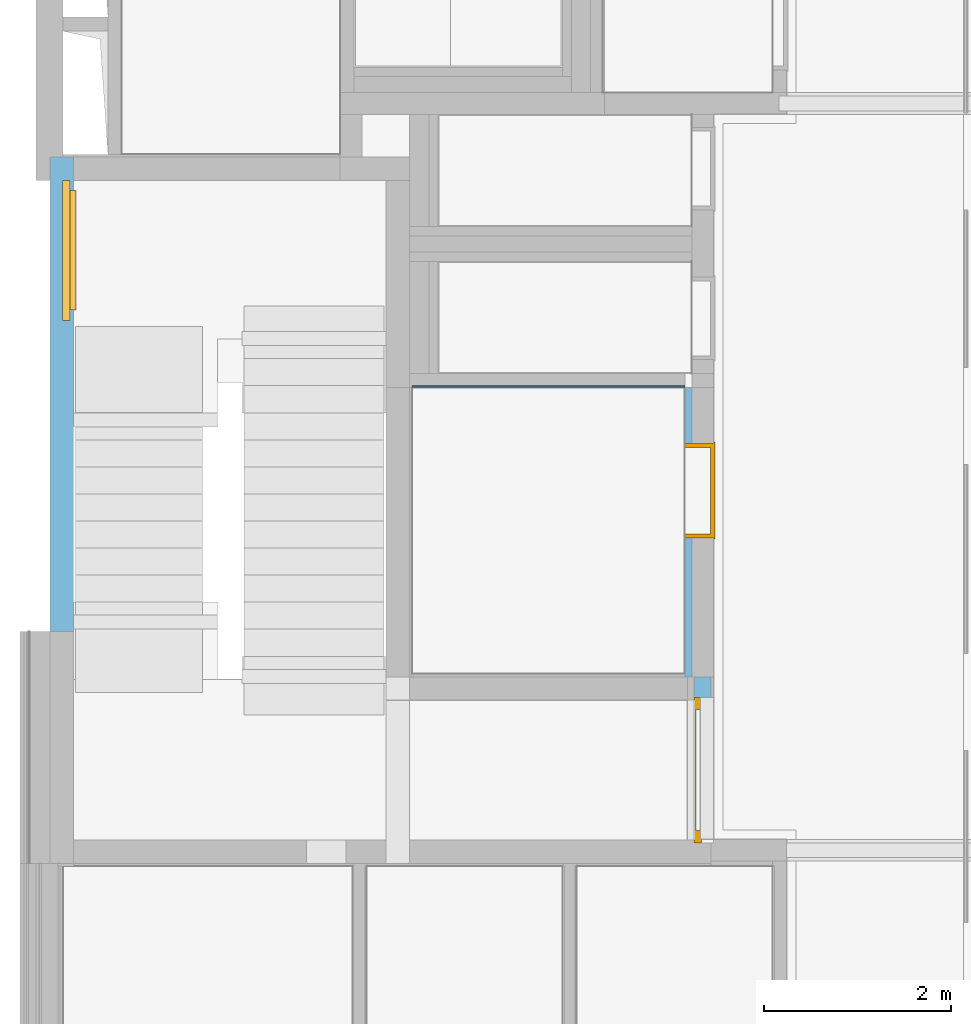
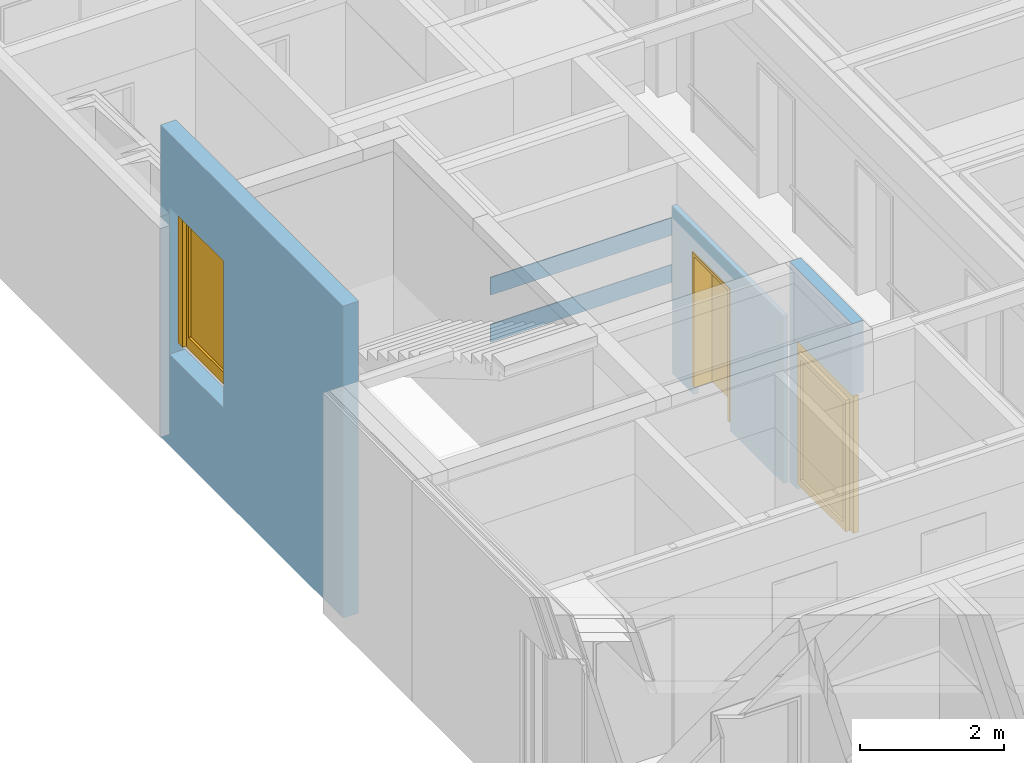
# One storey, part 67 of 222: 3 doors, 2 walls, 3 openings, plus 3 elements that do not belong to this part.
"""IFC4 building model written with IfcOpenShell, lengths in metres."""

from ifc_helpers import new_model, entity, si_unit, converted_unit, derived_unit, frame, frame_2d, origin, origin_with_axes, place, context, subcontext, project, spatial, polyline, rectangle, outline, extrude, closed_shell, open_shell, faceted_brep, surface_model, source, transform, mapped, material, type_object, element, fill, save


model = new_model("IFC4")

# Units and contexts
model_context = context("Model", 3, precision=1e-05, world=origin())
body_context = subcontext(model_context, "Body", "Model", "MODEL_VIEW")
ifc_project = project(units=[si_unit("LENGTHUNIT", "METRE"), si_unit("AREAUNIT", "SQUARE_METRE"), si_unit("VOLUMEUNIT", "CUBIC_METRE"), si_unit("MASSUNIT", "GRAM", prefix="KILO"), converted_unit("PLANEANGLEUNIT", "DEGREE", entity("IfcPlaneAngleMeasure", 0.0174532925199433), si_unit("PLANEANGLEUNIT", "RADIAN"), dimensions=[0, 0, 0, 0, 0, 0, 0]), derived_unit("THERMALTRANSMITTANCEUNIT", [(si_unit("POWERUNIT", "WATT"), 1), (si_unit("THERMODYNAMICTEMPERATUREUNIT", "KELVIN"), -1), (si_unit("LENGTHUNIT", "METRE"), -2)]), derived_unit("VOLUMETRICFLOWRATEUNIT", [(si_unit("LENGTHUNIT", "METRE"), 3), (converted_unit("TIMEUNIT", "hour", entity("IfcTimeMeasure", 3600.0), si_unit("TIMEUNIT", "SECOND"), dimensions=[0, 0, 1, 0, 0, 0, 0]), -1), (si_unit("LENGTHUNIT", "METRE"), -1)])], contexts=[model_context])

# Site, building, storey
site_placement = place(None, origin())
site = spatial("IfcSite", under=ifc_project, at=site_placement, Name="Psychiatrie Neubau Wunstorf", CompositionType="ELEMENT")
building_placement = place(site_placement, origin())
building = spatial("IfcBuilding", under=site, at=building_placement, Name="Neubau H2 Stationsgebäude", CompositionType="ELEMENT")
storey_placement = place(building_placement, frame((0.0, 0.0, 3.6)))
storey = spatial("IfcBuildingStorey", under=building, at=storey_placement, Name="H2 Ebene +1", CompositionType="ELEMENT", Elevation=3.6)

# Wall, opening, door
ifc_material_1 = material(Name="WI-STB")
wall_1_placement = place(storey_placement, frame((0.0300000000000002, 17.1949998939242, -0.2), z_axis=(0.0, 0.0, 1.0), x_axis=(0.0, -1.0, 0.0)))
wall_1 = element("IfcWall", 1, at=wall_1_placement, inside=storey, material=ifc_material_1, context=body_context, shape_type="SweptSolid", body=[
    extrude(rectangle(XDim=5.08475356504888, YDim=0.25, at=frame_2d((2.54237678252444, 0.125), x_axis=(1.0, 0.0))), origin_with_axes(), (0.0, 0.0, 1.0), 5.31),
])
opening_1_placement = place(wall_1_placement, frame((1.75000000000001, 0.25, 1.56), z_axis=(0.0, -1.0, 0.0), x_axis=(0.0, 0.0, 1.0)))
opening_1 = element("IfcOpeningElement", 2, at=opening_1_placement, cuts=wall_1, Name="Türöffnung", ObjectType="Opening", context=body_context, shape_type="SweptSolid", body=[
    extrude(outline(polyline([(2.5, 1.5), (2.5, 0.0), (0.0, 0.0), (0.0, 1.5), (2.5, 1.5)])), origin_with_axes(), (0.0, 0.0, 1.0), 0.25),
])
ifc_material_2 = material(Name="TI-1F-AG-DK")
door_type_1 = type_object("IfcDoorType", Name="SMT", OperationType="SINGLE_SWING_LEFT", ParameterTakesPrecedence=False, PredefinedType="DOOR")
shared_shape_1 = source(origin_with_axes(), body_context, "Body", "SurfaceModel", [
    surface_model("IfcShellBasedSurfaceModel", [(0.0, 0.0799999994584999, 2.5), (0.0, 0.0799999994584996, 0.15), (0.0499999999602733, 0.0799999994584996, 0.15), (0.0499999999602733, 0.0799999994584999, 2.5), (0.0, 0.0, 0.15), (0.0, 0.0, 2.5), (0.0499999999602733, 0.0, 2.5), (0.0499999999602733, 0.0, 0.15)], [closed_shell([[[0, 1, 2, 3]], [[4, 5, 6, 7]], [[1, 0, 5, 4]], [[2, 1, 4, 7]], [[3, 2, 7, 6]], [[0, 3, 6, 5]]], orient=[[False], [False], [False], [False], [False], [False]])]),
    surface_model("IfcShellBasedSurfaceModel", [(1.45000000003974, 0.0799999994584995, 2.5), (1.45000000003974, 0.0799999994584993, 0.15), (1.50000000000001, 0.0799999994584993, 0.15), (1.50000000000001, 0.0799999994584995, 2.5), (1.45000000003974, 0.0, 0.15), (1.45000000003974, 0.0, 2.5), (1.50000000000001, 0.0, 2.5), (1.50000000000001, 0.0, 0.15)], [closed_shell([[[0, 1, 2, 3]], [[4, 5, 6, 7]], [[1, 0, 5, 4]], [[2, 1, 4, 7]], [[3, 2, 7, 6]], [[0, 3, 6, 5]]], orient=[[False], [False], [False], [False], [False], [False]])]),
    surface_model("IfcShellBasedSurfaceModel", [(0.0499999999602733, 0.0799999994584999, 2.5), (0.0499999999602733, 0.0799999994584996, 0.15), (0.1299999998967, 0.0799999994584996, 0.15), (0.1299999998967, 0.0799999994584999, 2.5), (0.0499999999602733, 0.0, 0.15), (0.0499999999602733, 0.0, 2.5), (0.1299999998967, 0.0, 2.5), (0.1299999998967, 0.0, 0.15)], [closed_shell([[[0, 1, 2, 3]], [[4, 5, 6, 7]], [[1, 0, 5, 4]], [[2, 1, 4, 7]], [[3, 2, 7, 6]], [[0, 3, 6, 5]]], orient=[[False], [False], [False], [False], [False], [False]])]),
    surface_model("IfcShellBasedSurfaceModel", [(1.37000000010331, 0.0799999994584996, 2.5), (1.37000000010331, 0.0799999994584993, 0.15), (1.45000000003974, 0.0799999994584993, 0.15), (1.45000000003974, 0.0799999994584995, 2.5), (1.37000000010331, 0.0, 0.15), (1.37000000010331, 0.0, 2.5), (1.45000000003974, 0.0, 2.5), (1.45000000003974, 0.0, 0.15)], [closed_shell([[[0, 1, 2, 3]], [[4, 5, 6, 7]], [[1, 0, 5, 4]], [[2, 1, 4, 7]], [[3, 2, 7, 6]], [[0, 3, 6, 5]]], orient=[[False], [False], [False], [False], [False], [False]])]),
    surface_model("IfcShellBasedSurfaceModel", [(0.1299999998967, 0.0799999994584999, 2.5), (0.1299999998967, 0.0799999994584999, 2.42), (1.37000000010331, 0.0799999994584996, 2.42), (1.37000000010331, 0.0799999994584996, 2.5), (0.1299999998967, 0.0, 2.42), (0.1299999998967, 0.0, 2.5), (1.37000000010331, 0.0, 2.5), (1.37000000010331, 0.0, 2.42)], [closed_shell([[[0, 1, 2, 3]], [[4, 5, 6, 7]], [[1, 0, 5, 4]], [[2, 1, 4, 7]], [[3, 2, 7, 6]], [[0, 3, 6, 5]]], orient=[[False], [False], [False], [False], [False], [False]])]),
    surface_model("IfcShellBasedSurfaceModel", [(0.109999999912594, 0.1399999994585, 2.44), (0.109999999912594, 0.1399999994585, 0.13), (0.18999999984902, 0.1399999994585, 0.13), (0.18999999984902, 0.1399999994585, 2.44), (0.109999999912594, 0.0599999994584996, 0.13), (0.109999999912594, 0.0599999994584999, 2.44), (0.18999999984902, 0.0599999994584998, 2.44), (0.18999999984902, 0.0599999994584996, 0.13)], [closed_shell([[[0, 1, 2, 3]], [[4, 5, 6, 7]], [[1, 0, 5, 4]], [[2, 1, 4, 7]], [[3, 2, 7, 6]], [[0, 3, 6, 5]]], orient=[[False], [False], [False], [False], [False], [False]])]),
    surface_model("IfcShellBasedSurfaceModel", [(1.31000000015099, 0.1399999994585, 2.44), (1.31000000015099, 0.139999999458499, 0.13), (1.39000000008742, 0.139999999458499, 0.13), (1.39000000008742, 0.1399999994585, 2.44), (1.31000000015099, 0.0599999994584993, 0.13), (1.31000000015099, 0.0599999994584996, 2.44), (1.39000000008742, 0.0599999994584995, 2.44), (1.39000000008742, 0.0599999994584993, 0.13)], [closed_shell([[[0, 1, 2, 3]], [[4, 5, 6, 7]], [[1, 0, 5, 4]], [[2, 1, 4, 7]], [[3, 2, 7, 6]], [[0, 3, 6, 5]]], orient=[[False], [False], [False], [False], [False], [False]])]),
    surface_model("IfcShellBasedSurfaceModel", [(0.18999999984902, 0.1399999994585, 0.33), (0.18999999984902, 0.1399999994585, 0.13), (1.31000000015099, 0.139999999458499, 0.13), (1.31000000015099, 0.139999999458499, 0.33), (0.18999999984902, 0.0599999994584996, 0.13), (0.18999999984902, 0.0599999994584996, 0.33), (1.31000000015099, 0.0599999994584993, 0.33), (1.31000000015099, 0.0599999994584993, 0.13)], [closed_shell([[[0, 1, 2, 3]], [[4, 5, 6, 7]], [[1, 0, 5, 4]], [[2, 1, 4, 7]], [[3, 2, 7, 6]], [[0, 3, 6, 5]]], orient=[[False], [False], [False], [False], [False], [False]])]),
    surface_model("IfcShellBasedSurfaceModel", [(0.18999999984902, 0.1399999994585, 2.44), (0.18999999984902, 0.1399999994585, 2.36), (1.31000000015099, 0.1399999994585, 2.36), (1.31000000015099, 0.1399999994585, 2.44), (0.18999999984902, 0.0599999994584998, 2.36), (0.18999999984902, 0.0599999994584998, 2.44), (1.31000000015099, 0.0599999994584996, 2.44), (1.31000000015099, 0.0599999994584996, 2.36)], [closed_shell([[[0, 1, 2, 3]], [[4, 5, 6, 7]], [[1, 0, 5, 4]], [[2, 1, 4, 7]], [[3, 2, 7, 6]], [[0, 3, 6, 5]]], orient=[[False], [False], [False], [False], [False], [False]])]),
    surface_model("IfcShellBasedSurfaceModel", [(0.18999999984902, 0.0999999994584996, 0.33), (1.31000000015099, 0.0999999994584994, 0.33), (1.31000000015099, 0.0999999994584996, 2.36), (0.18999999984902, 0.0999999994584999, 2.36)], [open_shell([[[0, 1, 2, 3]]], orient=[[False]])]),
])
door_1_placement = place(opening_1_placement, frame((0.0, 1.5, 0.115), z_axis=(1.0, 0.0, 0.0), x_axis=(0.0, -1.0, 0.0)))
door_1 = element("IfcDoor", 3, at=door_1_placement, inside=storey, type_object=door_type_1, material=ifc_material_2, Name="SMT", OverallHeight=2.5, OverallWidth=1.5, context=body_context, shape_type="MappedRepresentation", body=[
    mapped(shared_shape_1, transform((0.0, 0.0, 0.0), x_axis=(1.0, 0.0, 0.0), y_axis=(0.0, 1.0, 0.0), z_axis=(0.0, 0.0, 1.0), scale=1.0)),
])
fill(opening_1, door_1)

ifc_material_3 = material(Name="WI-STB")
wall_2_placement = place(storey_placement, frame((6.93099923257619, 11.6249998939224, 0.0), z_axis=(0.0, 0.0, 1.0), x_axis=(0.0, -1.0, 0.0)))
wall_2 = element("IfcWall", 4, at=wall_2_placement, inside=storey, material=ifc_material_3, context=body_context, shape_type="SweptSolid", body=[
    extrude(rectangle(XDim=1.74999844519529, YDim=0.179999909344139, at=frame_2d((0.874999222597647, 0.0899999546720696), x_axis=(1.0, 0.0))), origin_with_axes(), (0.0, 0.0, 1.0), 3.75),
])
opening_2_placement = place(wall_2_placement, frame((1.7799999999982, 0.179999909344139, 0.0), z_axis=(0.0, -1.0, 0.0), x_axis=(0.0, 0.0, 1.0)))
opening_2 = element("IfcOpeningElement", 5, at=opening_2_placement, cuts=wall_2, Name="Türöffnung", ObjectType="Opening", context=body_context, shape_type="SweptSolid", body=[
    extrude(outline(polyline([(2.53, 1.56), (2.53, 0.0), (0.0, 0.0), (0.0, 1.56), (2.53, 1.56)])), origin_with_axes(), (0.0, 0.0, 1.0), 0.179999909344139),
])
ifc_material_4 = material(Name="TI-1F-AG-D-O")
door_type_2 = type_object("IfcDoorType", Name="SMT", OperationType="SINGLE_SWING_RIGHT", ParameterTakesPrecedence=False, PredefinedType="DOOR")
shared_shape_2 = source(origin_with_axes(), body_context, "Body", "SurfaceModel", [
    surface_model("IfcShellBasedSurfaceModel", [(1.54597999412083, 0.0791468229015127, 2.53), (1.49597999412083, 0.0791468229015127, 2.53), (1.49597999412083, 0.0791468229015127, 0.2), (1.54597999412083, 0.0791468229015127, 0.2), (1.54597999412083, -0.000853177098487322, 0.2), (1.49597999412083, -0.000853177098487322, 0.2), (1.49597999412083, -0.000853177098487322, 2.53), (1.54597999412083, -0.000853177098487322, 2.53)], [closed_shell([[[0, 1, 2, 3]], [[4, 5, 6, 7]], [[3, 4, 7, 0]], [[2, 5, 4, 3]], [[1, 6, 5, 2]], [[0, 7, 6, 1]]], orient=[[False], [False], [False], [False], [False], [False]])]),
    surface_model("IfcShellBasedSurfaceModel", [(0.0359799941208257, 0.0791468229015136, 2.53), (-0.0140200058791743, 0.0791468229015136, 2.53), (-0.0140200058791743, 0.0791468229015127, 0.2), (0.0359799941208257, 0.0791468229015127, 0.2), (0.0359799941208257, -0.000853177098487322, 0.2), (-0.0140200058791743, -0.000853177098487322, 0.2), (-0.0140200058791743, -0.000853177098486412, 2.53), (0.0359799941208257, -0.000853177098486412, 2.53)], [closed_shell([[[0, 1, 2, 3]], [[4, 5, 6, 7]], [[3, 4, 7, 0]], [[2, 5, 4, 3]], [[1, 6, 5, 2]], [[0, 7, 6, 1]]], orient=[[False], [False], [False], [False], [False], [False]])]),
    surface_model("IfcShellBasedSurfaceModel", [(1.49597999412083, 0.0791468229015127, 2.53), (0.0359799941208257, 0.0791468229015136, 2.53), (0.0359799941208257, 0.0791468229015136, 2.48), (1.49597999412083, 0.0791468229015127, 2.48), (1.49597999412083, -0.000853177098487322, 2.48), (0.0359799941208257, -0.000853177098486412, 2.48), (0.0359799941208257, -0.000853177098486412, 2.53), (1.49597999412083, -0.000853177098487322, 2.53)], [closed_shell([[[0, 1, 2, 3]], [[4, 5, 6, 7]], [[3, 4, 7, 0]], [[2, 5, 4, 3]], [[1, 6, 5, 2]], [[0, 7, 6, 1]]], orient=[[False], [False], [False], [False], [False], [False]])]),
    surface_model("IfcShellBasedSurfaceModel", [(1.49597999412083, 0.0791468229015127, 2.48), (1.41597999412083, 0.0791468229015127, 2.48), (1.41597999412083, 0.0791468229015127, 0.2), (1.49597999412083, 0.0791468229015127, 0.2), (1.49597999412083, -0.000853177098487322, 0.2), (1.41597999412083, -0.000853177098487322, 0.2), (1.41597999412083, -0.000853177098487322, 2.48), (1.49597999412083, -0.000853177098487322, 2.48)], [closed_shell([[[0, 1, 2, 3]], [[4, 5, 6, 7]], [[3, 4, 7, 0]], [[2, 5, 4, 3]], [[1, 6, 5, 2]], [[0, 7, 6, 1]]], orient=[[False], [False], [False], [False], [False], [False]])]),
    surface_model("IfcShellBasedSurfaceModel", [(0.115979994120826, 0.0791468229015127, 2.48), (0.0359799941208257, 0.0791468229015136, 2.48), (0.0359799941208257, 0.0791468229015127, 0.2), (0.115979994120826, 0.0791468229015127, 0.2), (0.115979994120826, -0.000853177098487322, 0.2), (0.0359799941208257, -0.000853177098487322, 0.2), (0.0359799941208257, -0.000853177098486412, 2.48), (0.115979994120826, -0.000853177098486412, 2.48)], [closed_shell([[[0, 1, 2, 3]], [[4, 5, 6, 7]], [[3, 4, 7, 0]], [[2, 5, 4, 3]], [[1, 6, 5, 2]], [[0, 7, 6, 1]]], orient=[[False], [False], [False], [False], [False], [False]])]),
    surface_model("IfcShellBasedSurfaceModel", [(1.41597999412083, 0.0791468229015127, 2.48), (0.115979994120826, 0.0791468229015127, 2.48), (0.115979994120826, 0.0791468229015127, 2.4), (1.41597999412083, 0.0791468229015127, 2.4), (1.41597999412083, -0.000853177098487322, 2.4), (0.115979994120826, -0.000853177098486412, 2.4), (0.115979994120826, -0.000853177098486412, 2.48), (1.41597999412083, -0.000853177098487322, 2.48)], [closed_shell([[[0, 1, 2, 3]], [[4, 5, 6, 7]], [[3, 4, 7, 0]], [[2, 5, 4, 3]], [[1, 6, 5, 2]], [[0, 7, 6, 1]]], orient=[[False], [False], [False], [False], [False], [False]])]),
    surface_model("IfcShellBasedSurfaceModel", [(1.43597999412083, 0.139146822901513, 2.42), (1.35597999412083, 0.139146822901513, 2.42), (1.35597999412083, 0.139146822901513, 0.18), (1.43597999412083, 0.139146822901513, 0.18), (1.43597999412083, 0.0591468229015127, 0.18), (1.35597999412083, 0.0591468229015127, 0.18), (1.35597999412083, 0.0591468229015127, 2.42), (1.43597999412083, 0.0591468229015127, 2.42)], [closed_shell([[[0, 1, 2, 3]], [[4, 5, 6, 7]], [[3, 4, 7, 0]], [[2, 5, 4, 3]], [[1, 6, 5, 2]], [[0, 7, 6, 1]]], orient=[[False], [False], [False], [False], [False], [False]])]),
    surface_model("IfcShellBasedSurfaceModel", [(0.175979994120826, 0.139146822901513, 2.42), (0.0959799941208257, 0.139146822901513, 2.42), (0.0959799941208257, 0.139146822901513, 0.18), (0.175979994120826, 0.139146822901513, 0.18), (0.175979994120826, 0.0591468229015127, 0.18), (0.0959799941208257, 0.0591468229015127, 0.18), (0.0959799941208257, 0.0591468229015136, 2.42), (0.175979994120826, 0.0591468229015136, 2.42)], [closed_shell([[[0, 1, 2, 3]], [[4, 5, 6, 7]], [[3, 4, 7, 0]], [[2, 5, 4, 3]], [[1, 6, 5, 2]], [[0, 7, 6, 1]]], orient=[[False], [False], [False], [False], [False], [False]])]),
    surface_model("IfcShellBasedSurfaceModel", [(1.35597999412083, 0.139146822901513, 0.3), (0.175979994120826, 0.139146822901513, 0.3), (0.175979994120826, 0.139146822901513, 0.18), (1.35597999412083, 0.139146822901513, 0.18), (1.35597999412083, 0.0591468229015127, 0.18), (0.175979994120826, 0.0591468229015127, 0.18), (0.175979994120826, 0.0591468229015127, 0.3), (1.35597999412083, 0.0591468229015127, 0.3)], [closed_shell([[[0, 1, 2, 3]], [[4, 5, 6, 7]], [[3, 4, 7, 0]], [[2, 5, 4, 3]], [[1, 6, 5, 2]], [[0, 7, 6, 1]]], orient=[[False], [False], [False], [False], [False], [False]])]),
    surface_model("IfcShellBasedSurfaceModel", [(1.35597999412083, 0.139146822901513, 2.42), (0.175979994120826, 0.139146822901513, 2.42), (0.175979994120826, 0.139146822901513, 2.34), (1.35597999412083, 0.139146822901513, 2.34), (1.35597999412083, 0.0591468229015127, 2.34), (0.175979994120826, 0.0591468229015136, 2.34), (0.175979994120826, 0.0591468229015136, 2.42), (1.35597999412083, 0.0591468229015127, 2.42)], [closed_shell([[[0, 1, 2, 3]], [[4, 5, 6, 7]], [[3, 4, 7, 0]], [[2, 5, 4, 3]], [[1, 6, 5, 2]], [[0, 7, 6, 1]]], orient=[[False], [False], [False], [False], [False], [False]])]),
    surface_model("IfcShellBasedSurfaceModel", [(1.35597999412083, 0.0991468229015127, 0.3), (1.35597999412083, 0.0991468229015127, 2.34), (0.175979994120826, 0.0991468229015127, 2.34), (0.175979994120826, 0.0991468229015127, 0.3)], [open_shell([[[0, 1, 2, 3]]], orient=[[False]])]),
])
door_2_placement = place(opening_2_placement, frame((0.0, 0.0140200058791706, 0.100853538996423), z_axis=(1.0, 0.0, 0.0), x_axis=(0.0, 1.0, 0.0)))
door_2 = element("IfcDoor", 6, at=door_2_placement, inside=storey, type_object=door_type_2, material=ifc_material_4, Name="SMT", OverallHeight=2.53, OverallWidth=1.56, context=body_context, shape_type="MappedRepresentation", body=[
    mapped(shared_shape_2, transform((0.0, 0.0, 0.0), x_axis=(1.0, 0.0, 0.0), y_axis=(0.0, 1.0, 0.0), z_axis=(0.0, 0.0, 1.0), scale=1.0)),
])
fill(opening_2, door_2)

# Walls
for number, where, name in (
    (7, (3.90999963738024, 14.7250132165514, 2.35), "WV 1.1"),
    (8, (3.90999963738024, 14.7250132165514, 1.55), "WV 1.1"),
):
    element("IfcWall", number, at=place(storey_placement, frame(where)), inside=storey, Name=name, context=body_context, shape_type="Brep", body=[
        faceted_brep([(2.92, 0.0, 0.0), (2.92, 0.018, 0.0), (0.0, 0.018, 0.0), (0.0, 0.0, 0.0), (2.92, 0.018, 0.3), (2.92, 0.0, 0.3), (0.0, 0.0, 0.3), (0.0, 0.018, 0.3)], [[[0, 1, 2, 3]], [[4, 5, 6, 7]], [[1, 0, 5, 4]], [[2, 1, 4, 7]], [[3, 2, 7, 6]], [[0, 3, 6, 5]]], orient=[[False], [False], [False], [False], [False], [False]]),
    ])

# Wall, opening, door
ifc_material_5 = material(Name="WI-LB")
wall_3_placement = place(storey_placement, frame((6.8339987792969, 14.7250132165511, 0.0), z_axis=(0.0, 0.0, 1.0), x_axis=(-2.93383328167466e-16, -1.0, 0.0)))
wall_3 = element("IfcWall", 9, at=wall_3_placement, inside=storey, material=ifc_material_5, context=body_context, shape_type="SweptSolid", body=[
    extrude(rectangle(XDim=3.10002176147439, YDim=0.075, at=frame_2d((1.5500108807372, 0.0375), x_axis=(1.0, 0.0))), origin_with_axes(), (0.0, 0.0, 1.0), 2.85),
])
opening_3_placement = place(wall_3_placement, frame((1.61001332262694, 0.0750000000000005, 0.0), z_axis=(0.0, -1.0, 0.0), x_axis=(0.0, 0.0, 1.0)))
opening_3 = element("IfcOpeningElement", 10, at=opening_3_placement, cuts=wall_3, Name="Türöffnung", ObjectType="Opening", context=body_context, shape_type="SweptSolid", body=[
    extrude(outline(polyline([(2.41, 1.01), (2.41, 0.0), (0.0, 0.0), (0.0, 1.01), (2.41, 1.01)])), origin_with_axes(), (0.0, 0.0, 1.0), 0.075),
])
ifc_material_6 = material(Name="TI-1F-UZ-ZK")
door_type_3 = type_object("IfcDoorType", Name="SMT", OperationType="SINGLE_SWING_RIGHT", ParameterTakesPrecedence=False, PredefinedType="DOOR")
shared_shape_3 = source(origin_with_axes(), body_context, "Body", "Brep", [
    faceted_brep([(0.0, -0.0150000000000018, 2.41), (0.0400000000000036, -0.0150000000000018, 2.41), (0.0400000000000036, -0.0150000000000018, 0.15), (0.0, -0.0150000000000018, 0.15), (0.0, 0.321999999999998, 0.15), (0.0400000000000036, 0.321999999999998, 0.15), (0.0400000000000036, 0.321999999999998, 2.41), (0.0, 0.321999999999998, 2.41)], [[[0, 1, 2, 3]], [[4, 5, 6, 7]], [[3, 4, 7, 0]], [[2, 5, 4, 3]], [[1, 6, 5, 2]], [[0, 7, 6, 1]]], orient=[[False], [False], [False], [False], [False], [False]]),
    faceted_brep([(0.0, -0.0150000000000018, 2.425), (0.0, -0.0150000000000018, 0.15), (-0.0149999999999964, -0.0150000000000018, 0.15), (-0.0149999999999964, -0.0150000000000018, 2.425), (0.0, 0.0, 0.15), (0.0, 0.0, 2.425), (-0.0149999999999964, 0.0, 2.425), (-0.0149999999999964, 0.0, 0.15)], [[[0, 1, 2, 3]], [[4, 5, 6, 7]], [[1, 0, 5, 4]], [[2, 1, 4, 7]], [[3, 2, 7, 6]], [[0, 3, 6, 5]]], orient=[[False], [False], [False], [False], [False], [False]]),
    faceted_brep([(0.0, 0.306999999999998, 2.425), (0.0, 0.306999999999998, 0.15), (-0.0149999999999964, 0.306999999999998, 0.15), (-0.0149999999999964, 0.306999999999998, 2.425), (0.0, 0.321999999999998, 0.15), (0.0, 0.321999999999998, 2.425), (-0.0149999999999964, 0.321999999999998, 2.425), (-0.0149999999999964, 0.321999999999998, 0.15)], [[[0, 1, 2, 3]], [[4, 5, 6, 7]], [[1, 0, 5, 4]], [[2, 1, 4, 7]], [[3, 2, 7, 6]], [[0, 3, 6, 5]]], orient=[[False], [False], [False], [False], [False], [False]]),
    faceted_brep([(0.970000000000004, -0.0150000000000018, 2.41), (1.01, -0.0150000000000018, 2.41), (1.01, -0.0150000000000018, 0.15), (0.970000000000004, -0.0150000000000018, 0.15), (0.970000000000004, 0.321999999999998, 0.15), (1.01, 0.321999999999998, 0.15), (1.01, 0.321999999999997, 2.41), (0.970000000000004, 0.321999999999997, 2.41)], [[[0, 1, 2, 3]], [[4, 5, 6, 7]], [[3, 4, 7, 0]], [[2, 5, 4, 3]], [[1, 6, 5, 2]], [[0, 7, 6, 1]]], orient=[[False], [False], [False], [False], [False], [False]]),
    faceted_brep([(1.01, -0.0150000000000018, 2.425), (1.025, -0.0150000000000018, 2.425), (1.025, -0.0150000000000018, 0.15), (1.01, -0.0150000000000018, 0.15), (1.01, 0.0, 0.15), (1.025, 0.0, 0.15), (1.025, 0.0, 2.425), (1.01, 0.0, 2.425)], [[[0, 1, 2, 3]], [[4, 5, 6, 7]], [[3, 4, 7, 0]], [[2, 5, 4, 3]], [[1, 6, 5, 2]], [[0, 7, 6, 1]]], orient=[[False], [False], [False], [False], [False], [False]]),
    faceted_brep([(1.01, 0.306999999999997, 2.425), (1.025, 0.306999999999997, 2.425), (1.025, 0.306999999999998, 0.15), (1.01, 0.306999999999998, 0.15), (1.01, 0.321999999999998, 0.15), (1.025, 0.321999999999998, 0.15), (1.025, 0.321999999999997, 2.425), (1.01, 0.321999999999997, 2.425)], [[[0, 1, 2, 3]], [[4, 5, 6, 7]], [[3, 4, 7, 0]], [[2, 5, 4, 3]], [[1, 6, 5, 2]], [[0, 7, 6, 1]]], orient=[[False], [False], [False], [False], [False], [False]]),
    faceted_brep([(0.0400000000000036, -0.0150000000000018, 2.41), (0.970000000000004, -0.0150000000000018, 2.41), (0.970000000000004, -0.0150000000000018, 2.37), (0.0400000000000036, -0.0150000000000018, 2.37), (0.0400000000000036, 0.321999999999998, 2.37), (0.970000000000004, 0.321999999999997, 2.37), (0.970000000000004, 0.321999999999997, 2.41), (0.0400000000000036, 0.321999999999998, 2.41)], [[[0, 1, 2, 3]], [[4, 5, 6, 7]], [[3, 4, 7, 0]], [[2, 5, 4, 3]], [[1, 6, 5, 2]], [[0, 7, 6, 1]]], orient=[[False], [False], [False], [False], [False], [False]]),
    faceted_brep([(0.0, -0.0150000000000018, 2.425), (1.01, -0.0150000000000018, 2.425), (1.01, -0.0150000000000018, 2.41), (0.0, -0.0150000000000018, 2.41), (0.0, 0.0, 2.41), (1.01, 0.0, 2.41), (1.01, 0.0, 2.425), (0.0, 0.0, 2.425)], [[[0, 1, 2, 3]], [[4, 5, 6, 7]], [[3, 4, 7, 0]], [[2, 5, 4, 3]], [[1, 6, 5, 2]], [[0, 7, 6, 1]]], orient=[[False], [False], [False], [False], [False], [False]]),
    faceted_brep([(0.0, 0.306999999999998, 2.425), (1.01, 0.306999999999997, 2.425), (1.01, 0.306999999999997, 2.41), (0.0, 0.306999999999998, 2.41), (0.0, 0.321999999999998, 2.41), (1.01, 0.321999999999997, 2.41), (1.01, 0.321999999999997, 2.425), (0.0, 0.321999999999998, 2.425)], [[[0, 1, 2, 3]], [[4, 5, 6, 7]], [[3, 4, 7, 0]], [[2, 5, 4, 3]], [[1, 6, 5, 2]], [[0, 7, 6, 1]]], orient=[[False], [False], [False], [False], [False], [False]]),
    faceted_brep([(0.0250000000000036, 0.272999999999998, 2.385), (0.985000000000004, 0.272999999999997, 2.385), (0.985000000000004, 0.272999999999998, 0.15), (0.0250000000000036, 0.272999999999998, 0.15), (0.0250000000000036, 0.322999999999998, 0.15), (0.985000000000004, 0.322999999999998, 0.15), (0.985000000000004, 0.322999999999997, 2.385), (0.0250000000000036, 0.322999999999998, 2.385)], [[[0, 1, 2, 3]], [[4, 5, 6, 7]], [[3, 4, 7, 0]], [[2, 5, 4, 3]], [[1, 6, 5, 2]], [[0, 7, 6, 1]]], orient=[[False], [False], [False], [False], [False], [False]]),
])
door_3_placement = place(opening_3_placement, frame((0.0, 1.01, 0.0750000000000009), z_axis=(1.0, 0.0, 0.0), x_axis=(0.0, -1.0, -2.93383328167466e-16)))
door_3 = element("IfcDoor", 11, at=door_3_placement, inside=storey, type_object=door_type_3, material=ifc_material_6, Name="SMT", OverallHeight=2.41, OverallWidth=1.01, context=body_context, shape_type="MappedRepresentation", body=[
    mapped(shared_shape_3, transform((0.0, 0.0, 0.0), x_axis=(1.0, 0.0, 0.0), y_axis=(0.0, 1.0, 0.0), z_axis=(0.0, 0.0, 1.0), scale=1.0)),
])
fill(opening_3, door_3)

save(model, "model.ifc")
